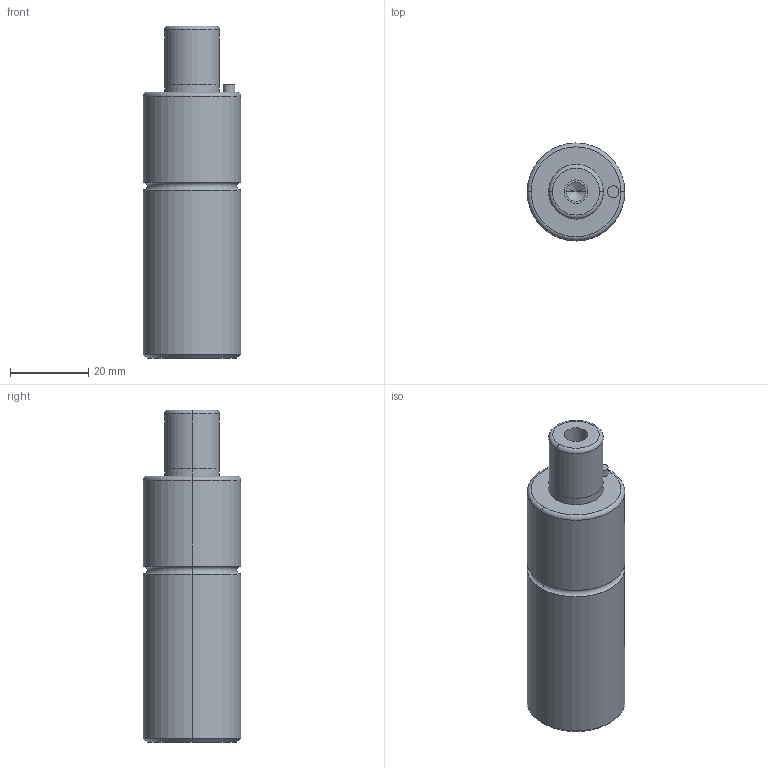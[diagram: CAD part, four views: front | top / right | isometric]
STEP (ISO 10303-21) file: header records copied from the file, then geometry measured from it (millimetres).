
FILE_DESCRIPTION(/* description */ (''),/* implementation_level */ '2;1');
FILE_NAME(/* name */ '3d_gsm25-15_03925_r00.stp',/* time_stamp */ '2011-01-10T14:15:17+09:00',/* author */ ('MISUMI'),/* organization */ (''),/* preprocessor_version */ 'ST-DEVELOPER v11',/* originating_system */ 'UGS - NX 5.0',/* authorisation */ '');
FILE_SCHEMA (('CONFIG_CONTROL_DESIGN'));
Length unit declared in the file: millimetre
Products named in the file (1): 3d_gsm25-15_03925_r00
Bounding box: 25 x 25 x 85 mm (x, y, z)
Volume: 35284.9 mm3; surface area: 7429.8 mm2
Topology: 1 solids, 1 shells, 36 faces, 74 edges, 42 vertices
Faces by surface type: cylinder 18, cone 6, plane 6, torus 6
Entity records: 1014 total; most frequent: DIRECTION 190, CARTESIAN_POINT 149, ORIENTED_EDGE 140, AXIS2_PLACEMENT_3D 83, EDGE_CURVE 70, CIRCLE 46, EDGE_LOOP 42, VERTEX_POINT 42
